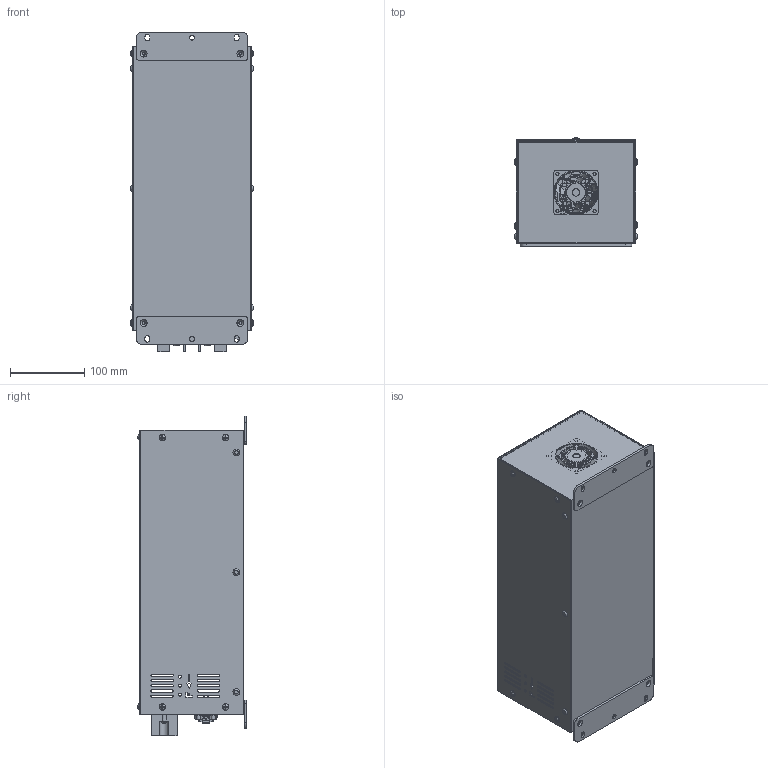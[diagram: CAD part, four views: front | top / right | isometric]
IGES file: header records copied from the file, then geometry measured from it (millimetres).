
Global section: file name: X2COM; native system: Autodesk Inventor 2021; preprocessor: unknown; author: EunSol Jang; organization: Tabos; date: 20211210.160924; units: millimetre
Bounding box: 165.84 x 145.97 x 430 mm (x, y, z)
Volume: 514546.2 mm3; surface area: 648780.8 mm2
Topology: 9 solids, 9 shells, 4455 faces, 12205 edges, 8108 vertices
Faces by surface type: bspline 4455
